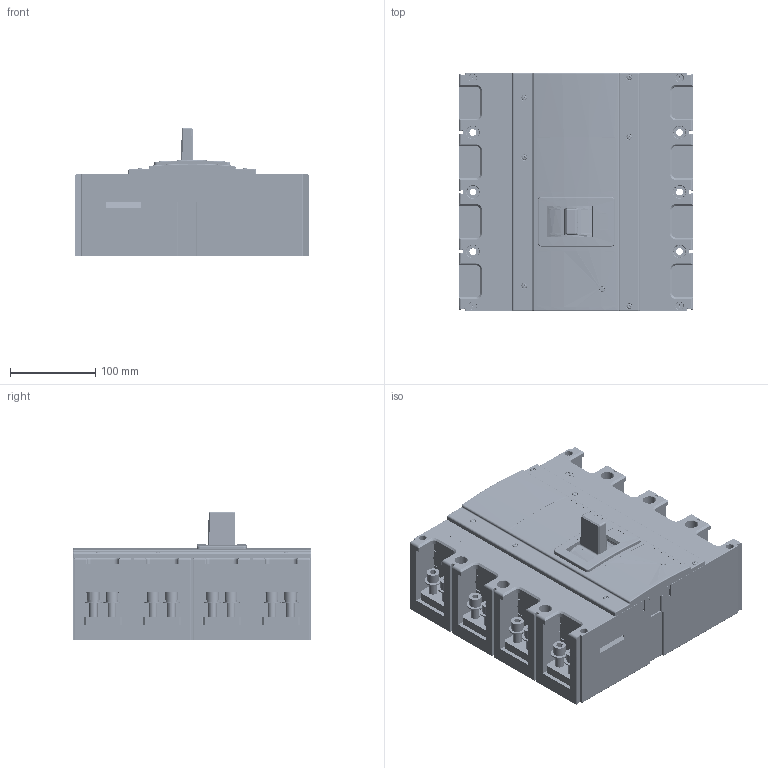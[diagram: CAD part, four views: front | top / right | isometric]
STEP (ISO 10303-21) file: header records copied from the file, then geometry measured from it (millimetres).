
FILE_DESCRIPTION((''),'2;1');
FILE_NAME('CDM3S-1250-4P_ASM','2022-05-06T',('yunfei.liu'),(''),'PRO/ENGINEER BY PARAMETRIC TECHNOLOGY CORPORATION, 2015440','PRO/ENGINEER BY PARAMETRIC TECHNOLOGY CORPORATION, 2015440','');
FILE_SCHEMA(('CONFIG_CONTROL_DESIGN'));
Products named in the file (130): CDM3S-1250-4P_1; CDM3S-1250-4P_2; CDM3S-1250-4P_3; CDM3S-1250-4P_4; CDM3S-1250-4P_5; CDM3S-1250-4P_6; CDM3S-1250-4P_7; CDM3S-1250-4P_8; CDM3S-1250-4P_9; CDM3S-1250-4P_10; CDM3S-1250-4P_11; CDM3S-1250-4P_12; CDM3S-1250-4P_13; CDM3S-1250-4P_14; CDM3S-1250-4P_15; CDM3S-1250-4P_16; CDM3S-1250-4P_17; CDM3S-1250-4P_18; CDM3S-1250-4P_19; CDM3S-1250-4P_20; CDM3S-1250-4P_21; CDM3S-1250-4P_22; CDM3S-1250-4P_23; CDM3S-1250-4P_24; CDM3S-1250-4P_25; CDM3S-1250-4P_26; CDM3S-1250-4P_27; CDM3S-1250-4P_28; CDM3S-1250-4P_29; CDM3S-1250-4P_30; CDM3S-1250-4P_31; CDM3S-1250-4P_32; CDM3S-1250-4P_33; CDM3S-1250-4P_34; CDM3S-1250-4P_35; CDM3S-1250-4P_36; CDM3S-1250-4P_37; CDM3S-1250-4P_38; CDM3S-1250-4P_39; CDM3S-1250-4P_40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
Assembly tree (129 placements, depth 3):
  CDM3S-1250-4P_ASM
    ASM0010_ASM
      CDM3S-1250-4P_1
      CDM3S-1250-4P_2
      CDM3S-1250-4P_3
      CDM3S-1250-4P_4
      CDM3S-1250-4P_5
      CDM3S-1250-4P_6
      CDM3S-1250-4P_7
      CDM3S-1250-4P_8
      CDM3S-1250-4P_9
      CDM3S-1250-4P_10
      CDM3S-1250-4P_11
      CDM3S-1250-4P_12
      CDM3S-1250-4P_13
      CDM3S-1250-4P_14
      CDM3S-1250-4P_15
      CDM3S-1250-4P_16
      CDM3S-1250-4P_17
      CDM3S-1250-4P_18
      CDM3S-1250-4P_19
      CDM3S-1250-4P_20
      CDM3S-1250-4P_21
      CDM3S-1250-4P_22
      CDM3S-1250-4P_23
      CDM3S-1250-4P_24
      CDM3S-1250-4P_25
      CDM3S-1250-4P_26
      CDM3S-1250-4P_27
      CDM3S-1250-4P_28
      CDM3S-1250-4P_29
      CDM3S-1250-4P_30
      CDM3S-1250-4P_31
      CDM3S-1250-4P_32
      CDM3S-1250-4P_33
      CDM3S-1250-4P_34
      CDM3S-1250-4P_35
      CDM3S-1250-4P_36
      CDM3S-1250-4P_37
      CDM3S-1250-4P_38
      CDM3S-1250-4P_39
      CDM3S-1250-4P_40
      CDM3S-1250-4P_41
      CDM3S-1250-4P_42
      CDM3S-1250-4P_43
      CDM3S-1250-4P_44
      CDM3S-1250-4P_45
      CDM3S-1250-4P_46
      CDM3S-1250-4P_47
      CDM3S-1250-4P_48
      CDM3S-1250-4P_49
      CDM3S-1250-4P_50
      CDM3S-1250-4P_51
      CDM3S-1250-4P_52
      CDM3S-1250-4P_53
      CDM3S-1250-4P_54
      CDM3S-1250-4P_55
      CDM3S-1250-4P_56
      CDM3S-1250-4P_57
      CDM3S-1250-4P_58
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Bounding box: 275.5 x 280 x 151.31 mm (x, y, z)
Volume: 2670682.2 mm3; surface area: 1315843.4 mm2
Topology: 118 solids, 132 shells, 8668 faces, 24244 edges, 16026 vertices
Faces by surface type: plane 4303, cylinder 3608, torus 291, cone 177, bspline 133, extrusion 110, sphere 44, revolution 2
Entity records: 388602 total; most frequent: CARTESIAN_POINT 162584, ORIENTED_EDGE 48284, DIRECTION 44748, EDGE_CURVE 24182, VERTEX_POINT 16026, AXIS2_PLACEMENT_3D 15084, VECTOR 14578, LINE 14468
